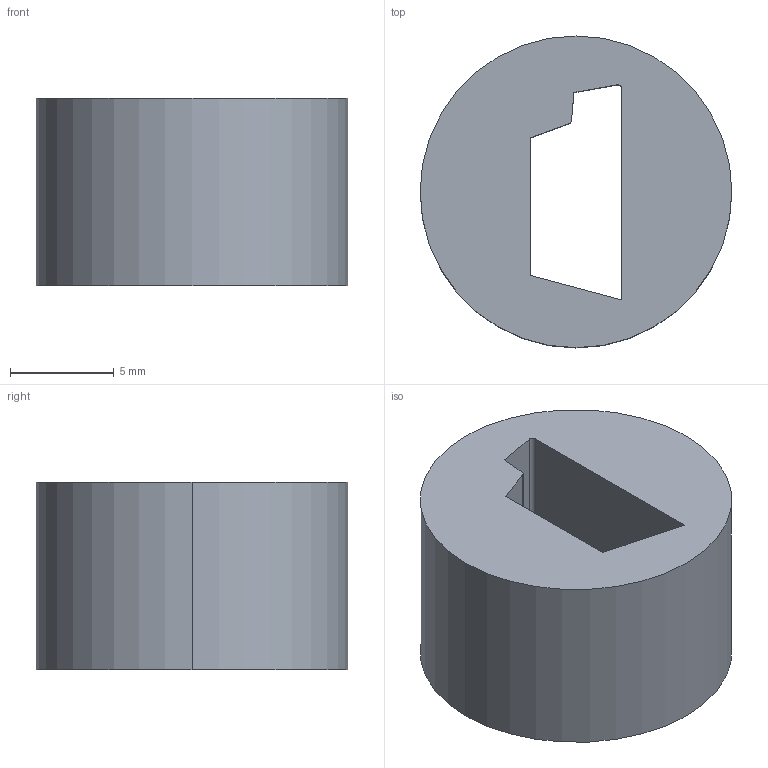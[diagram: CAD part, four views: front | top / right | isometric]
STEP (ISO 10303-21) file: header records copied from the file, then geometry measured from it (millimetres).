
FILE_DESCRIPTION (( 'STEP AP203' ), '1' );
FILE_NAME ('WJ-DM 20-ASI-1.STEP', '2007-03-12T13:17:03', ( ' ' ), ( '' ), 'SwSTEP 2.0', 'SolidWorks 2005278', '' );
FILE_SCHEMA (( 'CONFIG_CONTROL_DESIGN' ));
Length unit declared in the file: millimetre
Products named in the file (1): WJ-DM 20-ASI-1
Bounding box: 15 x 15 x 9 mm (x, y, z)
Volume: 1247.6 mm3; surface area: 947.2 mm2
Topology: 1 solids, 1 shells, 12 faces, 30 edges, 20 vertices
Faces by surface type: plane 8, cylinder 4
Entity records: 443 total; most frequent: DIRECTION 64, CARTESIAN_POINT 63, ORIENTED_EDGE 60, EDGE_CURVE 30, VECTOR 22, LINE 22, AXIS2_PLACEMENT_3D 21, VERTEX_POINT 20
